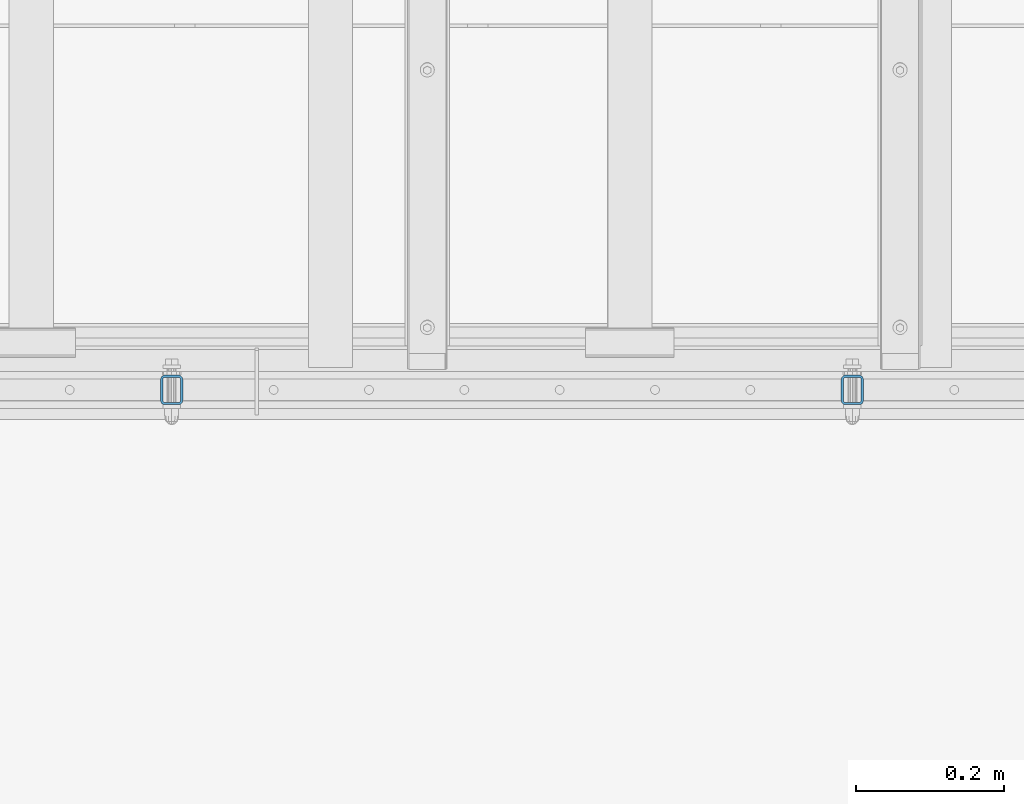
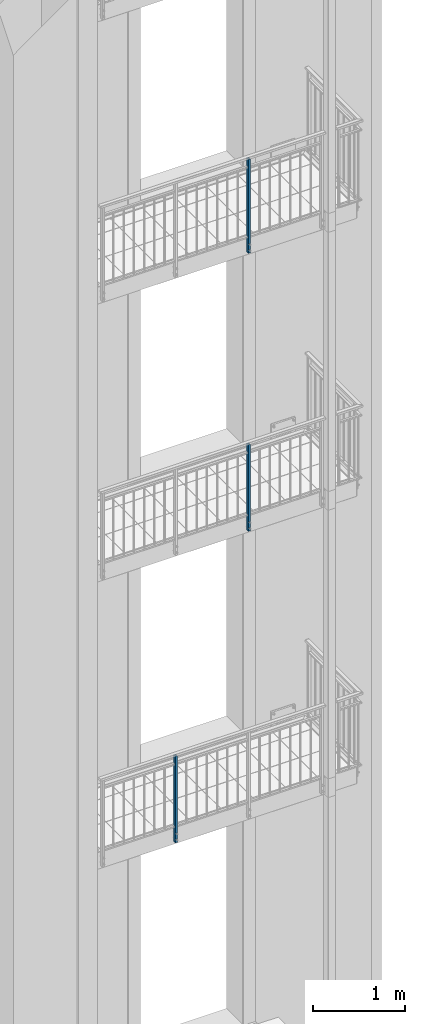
# One storey, part 4 of 162: 3 columns, 24 openings.
"""IFC2X3 building model written with IfcOpenShell, lengths in millimetres."""

from ifc_helpers import new_model, entity, si_unit, converted_unit, frame, frame_2d, origin, origin_with_axes, origin_2d, origin_2d_with_axis, place, context, project, spatial, hollow_rectangle, circle, extrude, material, element, save


model = new_model("IFC2X3")

# Units and contexts
model_context = context("Model", 3, precision=1e-09, world=origin_with_axes())
ifc_project = project(units=[si_unit("LENGTHUNIT", "METRE", prefix="MILLI"), si_unit("AREAUNIT", "SQUARE_METRE"), si_unit("VOLUMEUNIT", "CUBIC_METRE"), converted_unit("PLANEANGLEUNIT", "DEGREE", entity("IfcPlaneAngleMeasure", 0.01745329), si_unit("PLANEANGLEUNIT", "RADIAN"), dimensions=[0, 0, 0, 0, 0, 0, 0])], contexts=[model_context])

# Site, building, storey
site_placement = place(None, origin_with_axes())
site = spatial("IfcSite", under=ifc_project, at=site_placement, Name="Hermannstra?e 1a, 60318 Frankfurt", CompositionType="ELEMENT")
building_placement = place(site_placement, origin_with_axes())
building = spatial("IfcBuilding", under=site, at=building_placement, Name="Struktur 1", CompositionType="ELEMENT")
storey_placement = place(building_placement, origin_with_axes())
storey = spatial("IfcBuildingStorey", under=building, at=storey_placement, Name="Default Storey", CompositionType="ELEMENT", Elevation=0.0)

# Column, openings
ifc_material = material(Name="S235JR")
column_1_placement = place(None, frame((4443.30936482, 1515.609373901, 7600.0), z_axis=(0.0, 0.0, -1.0), x_axis=(1.0, 0.0, 0.0)))
column_1 = element("IfcColumn", 1, at=column_1_placement, inside=storey, material=ifc_material, Name="-", ObjectType="-", context=model_context, shape_type="SweptSolid", body=[
    extrude(hollow_rectangle(XDim=30.0, YDim=40.0, WallThickness=3.0, InnerFilletRadius=3.0, OuterFilletRadius=6.0, at=origin_2d()), origin(), (0.0, 0.0, -1.0), 1150.0),
])
opening_1_placement = place(column_1_placement, frame((-11.5, 5.001, -210.0), z_axis=(1.0, 0.0, 0.0), x_axis=(0.0, 1.0, 0.0)))
element("IfcOpeningElement", 2, at=opening_1_placement, cuts=column_1, ObjectType="Opening", context=model_context, shape_type="SweptSolid", body=[
    extrude(circle(Radius=5.001, at=frame_2d((-5.001, 0.0), x_axis=(1.0, 0.0))), origin(), (0.0, 0.0, -1.0), 4.0),
])
opening_2_placement = place(column_1_placement, frame((-11.5, 5.001, -1040.0), z_axis=(1.0, 0.0, 0.0), x_axis=(0.0, 1.0, 0.0)))
element("IfcOpeningElement", 3, at=opening_2_placement, cuts=column_1, ObjectType="Opening", context=model_context, shape_type="SweptSolid", body=[
    extrude(circle(Radius=5.001, at=frame_2d((-5.001, 0.0), x_axis=(1.0, 0.0))), origin(), (0.0, 0.0, -1.0), 4.0),
])
opening_3_placement = place(column_1_placement, frame((11.5, 0.0, -1040.0), z_axis=(1.0, 0.0, 0.0), x_axis=(0.0, -1.0, 0.0)))
element("IfcOpeningElement", 4, at=opening_3_placement, cuts=column_1, ObjectType="Opening", context=model_context, shape_type="SweptSolid", body=[
    extrude(circle(Radius=5.001, at=origin_2d_with_axis()), origin(), (0.0, 0.0, 1.0), 4.0),
])
opening_4_placement = place(column_1_placement, frame((11.5, 0.0, -240.0), z_axis=(1.0, 0.0, 0.0), x_axis=(0.0, -1.0, 0.0)))
element("IfcOpeningElement", 5, at=opening_4_placement, cuts=column_1, ObjectType="Opening", context=model_context, shape_type="SweptSolid", body=[
    extrude(circle(Radius=5.001, at=frame_2d((0.0, -30.0), x_axis=(1.0, 0.0))), origin(), (0.0, 0.0, 1.0), 4.0),
])
opening_5_placement = place(column_1_placement, frame((-8.001, -16.5, -120.0), z_axis=(0.0, 1.0, 0.0), x_axis=(-1.0, 0.0, 0.0)))
element("IfcOpeningElement", 6, at=opening_5_placement, cuts=column_1, ObjectType="Opening", context=model_context, shape_type="SweptSolid", body=[
    extrude(circle(Radius=8.001, at=frame_2d((-8.001, 0.0), x_axis=(1.0, 0.0))), origin(), (0.0, 0.0, -1.0), 4.0),
])
opening_6_placement = place(column_1_placement, frame((-8.001, -16.5, -40.0), z_axis=(0.0, 1.0, 0.0), x_axis=(-1.0, 0.0, 0.0)))
element("IfcOpeningElement", 7, at=opening_6_placement, cuts=column_1, ObjectType="Opening", context=model_context, shape_type="SweptSolid", body=[
    extrude(circle(Radius=8.001, at=frame_2d((-8.001, 0.0), x_axis=(1.0, 0.0))), origin(), (0.0, 0.0, -1.0), 4.0),
])
opening_7_placement = place(column_1_placement, frame((-8.001, 20.5, -120.0), z_axis=(0.0, 1.0, 0.0), x_axis=(-1.0, 0.0, 0.0)))
element("IfcOpeningElement", 8, at=opening_7_placement, cuts=column_1, ObjectType="Opening", context=model_context, shape_type="SweptSolid", body=[
    extrude(circle(Radius=8.001, at=frame_2d((-8.001, 0.0), x_axis=(1.0, 0.0))), origin(), (0.0, 0.0, -1.0), 4.0),
])
opening_8_placement = place(column_1_placement, frame((-8.001, 20.5, -40.0), z_axis=(0.0, 1.0, 0.0), x_axis=(-1.0, 0.0, 0.0)))
element("IfcOpeningElement", 9, at=opening_8_placement, cuts=column_1, ObjectType="Opening", context=model_context, shape_type="SweptSolid", body=[
    extrude(circle(Radius=8.001, at=frame_2d((-8.001, 0.0), x_axis=(1.0, 0.0))), origin(), (0.0, 0.0, -1.0), 4.0),
])

column_2_placement = place(None, frame((4443.30936482, 1515.609373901, 11299.999), z_axis=(0.0, 0.0, -1.0), x_axis=(1.0, 0.0, 0.0)))
column_2 = element("IfcColumn", 10, at=column_2_placement, inside=storey, material=ifc_material, Name="-", ObjectType="-", context=model_context, shape_type="SweptSolid", body=[
    extrude(hollow_rectangle(XDim=30.0, YDim=40.0, WallThickness=3.0, InnerFilletRadius=3.0, OuterFilletRadius=6.0, at=origin_2d()), origin(), (0.0, 0.0, -1.0), 1250.0),
])
opening_9_placement = place(column_2_placement, frame((-11.5, 5.001, -210.0), z_axis=(1.0, 0.0, 0.0), x_axis=(0.0, 1.0, 0.0)))
element("IfcOpeningElement", 11, at=opening_9_placement, cuts=column_2, ObjectType="Opening", context=model_context, shape_type="SweptSolid", body=[
    extrude(circle(Radius=5.001, at=frame_2d((-5.001, 0.0), x_axis=(1.0, 0.0))), origin(), (0.0, 0.0, -1.0), 4.0),
])
opening_10_placement = place(column_2_placement, frame((-11.5, 5.001, -1140.0), z_axis=(1.0, 0.0, 0.0), x_axis=(0.0, 1.0, 0.0)))
element("IfcOpeningElement", 12, at=opening_10_placement, cuts=column_2, ObjectType="Opening", context=model_context, shape_type="SweptSolid", body=[
    extrude(circle(Radius=5.001, at=frame_2d((-5.001, 0.0), x_axis=(1.0, 0.0))), origin(), (0.0, 0.0, -1.0), 4.0),
])
opening_11_placement = place(column_2_placement, frame((11.5, 0.0, -1040.0), z_axis=(1.0, 0.0, 0.0), x_axis=(0.0, -1.0, 0.0)))
element("IfcOpeningElement", 13, at=opening_11_placement, cuts=column_2, ObjectType="Opening", context=model_context, shape_type="SweptSolid", body=[
    extrude(circle(Radius=5.001, at=frame_2d((0.0, 100.0), x_axis=(1.0, 0.0))), origin(), (0.0, 0.0, 1.0), 4.0),
])
opening_12_placement = place(column_2_placement, frame((11.5, 0.0, -240.0), z_axis=(1.0, 0.0, 0.0), x_axis=(0.0, -1.0, 0.0)))
element("IfcOpeningElement", 14, at=opening_12_placement, cuts=column_2, ObjectType="Opening", context=model_context, shape_type="SweptSolid", body=[
    extrude(circle(Radius=5.001, at=frame_2d((0.0, -30.0), x_axis=(1.0, 0.0))), origin(), (0.0, 0.0, 1.0), 4.0),
])
opening_13_placement = place(column_2_placement, frame((-8.001, -16.5, -120.0), z_axis=(0.0, 1.0, 0.0), x_axis=(-1.0, 0.0, 0.0)))
element("IfcOpeningElement", 15, at=opening_13_placement, cuts=column_2, ObjectType="Opening", context=model_context, shape_type="SweptSolid", body=[
    extrude(circle(Radius=8.001, at=frame_2d((-8.001, 0.0), x_axis=(1.0, 0.0))), origin(), (0.0, 0.0, -1.0), 4.0),
])
opening_14_placement = place(column_2_placement, frame((-8.001, -16.5, -40.0), z_axis=(0.0, 1.0, 0.0), x_axis=(-1.0, 0.0, 0.0)))
element("IfcOpeningElement", 16, at=opening_14_placement, cuts=column_2, ObjectType="Opening", context=model_context, shape_type="SweptSolid", body=[
    extrude(circle(Radius=8.001, at=frame_2d((-8.001, 0.0), x_axis=(1.0, 0.0))), origin(), (0.0, 0.0, -1.0), 4.0),
])
opening_15_placement = place(column_2_placement, frame((-8.001, 20.5, -120.0), z_axis=(0.0, 1.0, 0.0), x_axis=(-1.0, 0.0, 0.0)))
element("IfcOpeningElement", 17, at=opening_15_placement, cuts=column_2, ObjectType="Opening", context=model_context, shape_type="SweptSolid", body=[
    extrude(circle(Radius=8.001, at=frame_2d((-8.001, 0.0), x_axis=(1.0, 0.0))), origin(), (0.0, 0.0, -1.0), 4.0),
])
opening_16_placement = place(column_2_placement, frame((-8.001, 20.5, -40.0), z_axis=(0.0, 1.0, 0.0), x_axis=(-1.0, 0.0, 0.0)))
element("IfcOpeningElement", 18, at=opening_16_placement, cuts=column_2, ObjectType="Opening", context=model_context, shape_type="SweptSolid", body=[
    extrude(circle(Radius=8.001, at=frame_2d((-8.001, 0.0), x_axis=(1.0, 0.0))), origin(), (0.0, 0.0, -1.0), 4.0),
])

column_3_placement = place(None, frame((3523.30936482, 1515.609373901, 3775.0), z_axis=(0.0, 0.0, -1.0), x_axis=(1.0, 0.0, 0.0)))
column_3 = element("IfcColumn", 19, at=column_3_placement, inside=storey, material=ifc_material, Name="-", ObjectType="-", context=model_context, shape_type="SweptSolid", body=[
    extrude(hollow_rectangle(XDim=30.0, YDim=40.0, WallThickness=3.0, InnerFilletRadius=3.0, OuterFilletRadius=6.0, at=origin_2d()), origin(), (0.0, 0.0, -1.0), 1150.0),
])
opening_17_placement = place(column_3_placement, frame((11.5, 0.0, -240.0), z_axis=(1.0, 0.0, 0.0), x_axis=(0.0, -1.0, 0.0)))
element("IfcOpeningElement", 20, at=opening_17_placement, cuts=column_3, ObjectType="Opening", context=model_context, shape_type="SweptSolid", body=[
    extrude(circle(Radius=5.001, at=frame_2d((0.0, -30.0), x_axis=(1.0, 0.0))), origin(), (0.0, 0.0, 1.0), 4.0),
])
opening_18_placement = place(column_3_placement, frame((11.5, 0.0, -1040.0), z_axis=(1.0, 0.0, 0.0), x_axis=(0.0, -1.0, 0.0)))
element("IfcOpeningElement", 21, at=opening_18_placement, cuts=column_3, ObjectType="Opening", context=model_context, shape_type="SweptSolid", body=[
    extrude(circle(Radius=5.001, at=origin_2d_with_axis()), origin(), (0.0, 0.0, 1.0), 4.0),
])
opening_19_placement = place(column_3_placement, frame((-11.5, 5.001, -1040.0), z_axis=(1.0, 0.0, 0.0), x_axis=(0.0, 1.0, 0.0)))
element("IfcOpeningElement", 22, at=opening_19_placement, cuts=column_3, ObjectType="Opening", context=model_context, shape_type="SweptSolid", body=[
    extrude(circle(Radius=5.001, at=frame_2d((-5.001, 0.0), x_axis=(1.0, 0.0))), origin(), (0.0, 0.0, -1.0), 4.0),
])
opening_20_placement = place(column_3_placement, frame((-11.5, 5.001, -210.0), z_axis=(1.0, 0.0, 0.0), x_axis=(0.0, 1.0, 0.0)))
element("IfcOpeningElement", 23, at=opening_20_placement, cuts=column_3, ObjectType="Opening", context=model_context, shape_type="SweptSolid", body=[
    extrude(circle(Radius=5.001, at=frame_2d((-5.001, 0.0), x_axis=(1.0, 0.0))), origin(), (0.0, 0.0, -1.0), 4.0),
])
opening_21_placement = place(column_3_placement, frame((-8.001, -16.5, -120.0), z_axis=(0.0, 1.0, 0.0), x_axis=(-1.0, 0.0, 0.0)))
element("IfcOpeningElement", 24, at=opening_21_placement, cuts=column_3, ObjectType="Opening", context=model_context, shape_type="SweptSolid", body=[
    extrude(circle(Radius=8.001, at=frame_2d((-8.001, 0.0), x_axis=(1.0, 0.0))), origin(), (0.0, 0.0, -1.0), 4.0),
])
opening_22_placement = place(column_3_placement, frame((-8.001, -16.5, -40.0), z_axis=(0.0, 1.0, 0.0), x_axis=(-1.0, 0.0, 0.0)))
element("IfcOpeningElement", 25, at=opening_22_placement, cuts=column_3, ObjectType="Opening", context=model_context, shape_type="SweptSolid", body=[
    extrude(circle(Radius=8.001, at=frame_2d((-8.001, 0.0), x_axis=(1.0, 0.0))), origin(), (0.0, 0.0, -1.0), 4.0),
])
opening_23_placement = place(column_3_placement, frame((-8.001, 20.5, -120.0), z_axis=(0.0, 1.0, 0.0), x_axis=(-1.0, 0.0, 0.0)))
element("IfcOpeningElement", 26, at=opening_23_placement, cuts=column_3, ObjectType="Opening", context=model_context, shape_type="SweptSolid", body=[
    extrude(circle(Radius=8.001, at=frame_2d((-8.001, 0.0), x_axis=(1.0, 0.0))), origin(), (0.0, 0.0, -1.0), 4.0),
])
opening_24_placement = place(column_3_placement, frame((-8.001, 20.5, -40.0), z_axis=(0.0, 1.0, 0.0), x_axis=(-1.0, 0.0, 0.0)))
element("IfcOpeningElement", 27, at=opening_24_placement, cuts=column_3, ObjectType="Opening", context=model_context, shape_type="SweptSolid", body=[
    extrude(circle(Radius=8.001, at=frame_2d((-8.001, 0.0), x_axis=(1.0, 0.0))), origin(), (0.0, 0.0, -1.0), 4.0),
])

save(model, "model.ifc")
